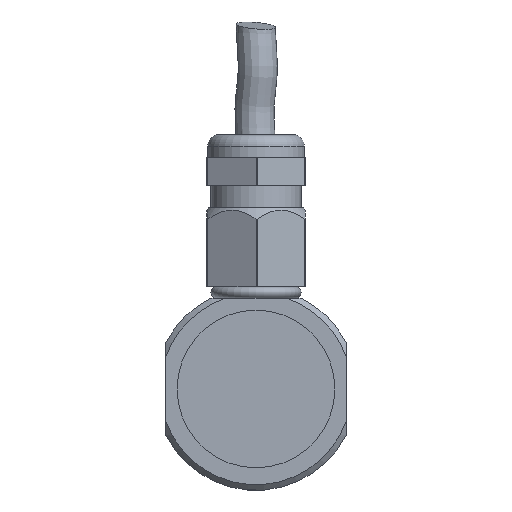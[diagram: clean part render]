
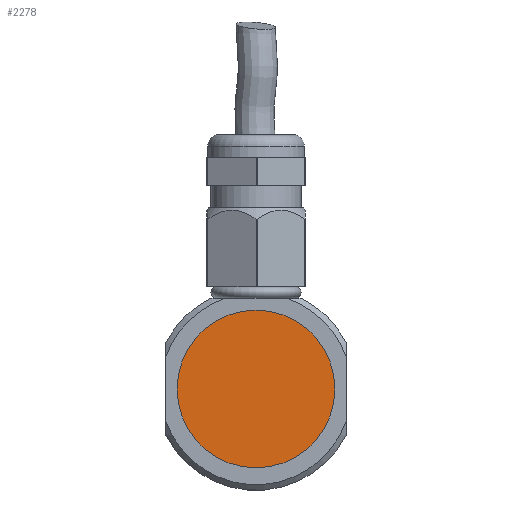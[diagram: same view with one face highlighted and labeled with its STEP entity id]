
A CAD part, left-side view. The second image highlights one B-rep face of the part: STEP entity #2278.
In plain terms, the highlighted planar face has unit normal (-1, 0, 0).
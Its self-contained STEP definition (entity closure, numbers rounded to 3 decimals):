
#910=PLANE('',#2406);
#959=CIRCLE('',#2405,7.);
#1089=VERTEX_POINT('',#4790);
#1327=EDGE_CURVE('',#1089,#1089,#959,.T.);
#1634=ORIENTED_EDGE('',*,*,#1327,.T.);
#2020=EDGE_LOOP('',(#1634));
#2152=FACE_BOUND('',#2020,.T.);
#2278=ADVANCED_FACE('',(#2152),#910,.T.);
#2405=AXIS2_PLACEMENT_3D('',#4789,#2638,#2639);
#2406=AXIS2_PLACEMENT_3D('',#4791,#2640,$);
#2638=DIRECTION('',(-1.,0.,0.));
#2639=DIRECTION('',(0.,0.,7.));
#2640=DIRECTION('',(-1.,0.,0.));
#4789=CARTESIAN_POINT('',(1.,0.,0.));
#4790=CARTESIAN_POINT('',(1.,0.,7.));
#4791=CARTESIAN_POINT('',(1.,0.,0.));
